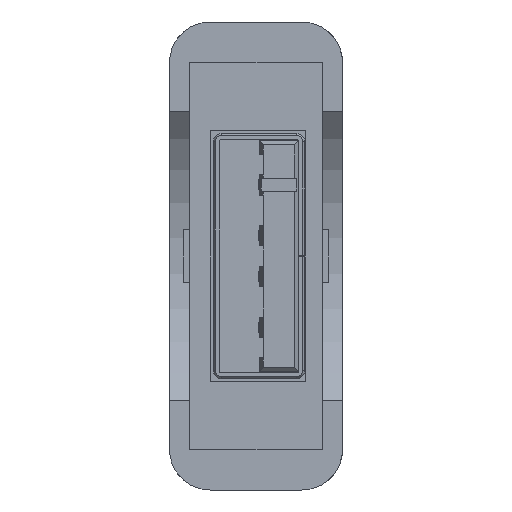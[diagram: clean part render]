
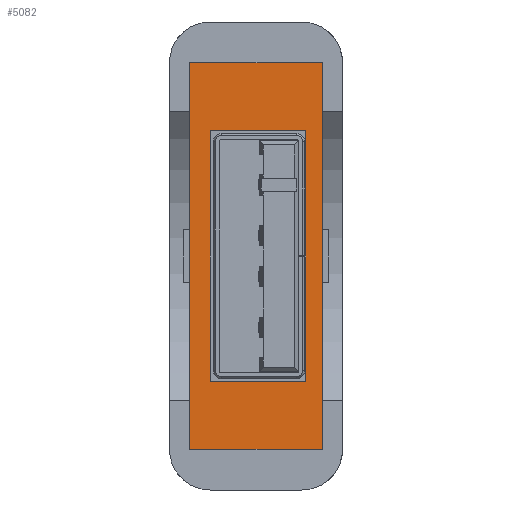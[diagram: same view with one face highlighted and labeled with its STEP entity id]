
A CAD part, left-side view. The second image highlights one B-rep face of the part: STEP entity #5082.
In plain terms, the highlighted planar face has unit normal (-1, 0, 0).
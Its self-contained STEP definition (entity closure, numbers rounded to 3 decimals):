
#132=FACE_BOUND('',#1951,.T.);
#520=LINE('',#8794,#1057);
#523=LINE('',#8799,#1060);
#559=LINE('',#8929,#1096);
#588=LINE('',#8988,#1125);
#602=LINE('',#9618,#1139);
#620=LINE('',#9667,#1157);
#622=LINE('',#9671,#1159);
#623=LINE('',#9672,#1160);
#1057=VECTOR('',#6517,1.);
#1060=VECTOR('',#6522,1.);
#1096=VECTOR('',#6600,1.);
#1125=VECTOR('',#6653,1.);
#1139=VECTOR('',#6769,1.);
#1157=VECTOR('',#6817,1.);
#1159=VECTOR('',#6821,1.);
#1160=VECTOR('',#6822,1.);
#1377=PLANE('',#5521);
#1642=FACE_OUTER_BOUND('',#1950,.T.);
#1950=EDGE_LOOP('',(#4611,#4612,#4613,#4614));
#1951=EDGE_LOOP('',(#4615,#4616,#4617,#4618));
#2493=VERTEX_POINT('',#8791);
#2494=VERTEX_POINT('',#8793);
#2495=VERTEX_POINT('',#8797);
#2537=VERTEX_POINT('',#8926);
#2538=VERTEX_POINT('',#8928);
#2556=VERTEX_POINT('',#8986);
#2590=VERTEX_POINT('',#9666);
#2591=VERTEX_POINT('',#9670);
#3125=EDGE_CURVE('',#2493,#2494,#520,.T.);
#3128=EDGE_CURVE('',#2493,#2495,#523,.T.);
#3177=EDGE_CURVE('',#2537,#2538,#559,.T.);
#3206=EDGE_CURVE('',#2556,#2495,#588,.T.);
#3253=EDGE_CURVE('',#2494,#2556,#602,.T.);
#3277=EDGE_CURVE('',#2590,#2538,#620,.T.);
#3279=EDGE_CURVE('',#2591,#2537,#622,.T.);
#3280=EDGE_CURVE('',#2590,#2591,#623,.T.);
#4611=ORIENTED_EDGE('',*,*,#3277,.T.);
#4612=ORIENTED_EDGE('',*,*,#3177,.F.);
#4613=ORIENTED_EDGE('',*,*,#3279,.F.);
#4614=ORIENTED_EDGE('',*,*,#3280,.F.);
#4615=ORIENTED_EDGE('',*,*,#3253,.F.);
#4616=ORIENTED_EDGE('',*,*,#3125,.F.);
#4617=ORIENTED_EDGE('',*,*,#3128,.T.);
#4618=ORIENTED_EDGE('',*,*,#3206,.F.);
#5082=ADVANCED_FACE('',(#1642,#132),#1377,.T.);
#5521=AXIS2_PLACEMENT_3D('',#9669,#6819,#6820);
#6517=DIRECTION('',(0.,0.,-1.));
#6522=DIRECTION('',(0.,-1.,0.));
#6600=DIRECTION('',(0.,0.,-1.));
#6653=DIRECTION('',(0.,0.,1.));
#6769=DIRECTION('',(0.,-1.,0.));
#6817=DIRECTION('',(0.,-1.,0.));
#6819=DIRECTION('center_axis',(-1.,0.,0.));
#6820=DIRECTION('ref_axis',(0.,0.,1.));
#6821=DIRECTION('',(0.,-1.,0.));
#6822=DIRECTION('',(0.,0.,1.));
#8791=CARTESIAN_POINT('',(10.541,35.799,46.305));
#8793=CARTESIAN_POINT('',(10.541,35.799,34.005));
#8794=CARTESIAN_POINT('',(10.541,35.799,46.305));
#8797=CARTESIAN_POINT('',(10.541,31.099,46.305));
#8799=CARTESIAN_POINT('',(10.541,35.799,46.305));
#8926=CARTESIAN_POINT('',(10.541,30.299,49.655));
#8928=CARTESIAN_POINT('',(10.541,30.299,30.655));
#8929=CARTESIAN_POINT('',(10.541,30.299,49.655));
#8986=CARTESIAN_POINT('',(10.541,31.099,34.005));
#8988=CARTESIAN_POINT('',(10.541,31.099,34.005));
#9618=CARTESIAN_POINT('',(10.541,35.799,34.005));
#9666=CARTESIAN_POINT('',(10.541,36.799,30.655));
#9667=CARTESIAN_POINT('',(10.541,36.799,30.655));
#9669=CARTESIAN_POINT('Origin',(10.541,37.799,49.655));
#9670=CARTESIAN_POINT('',(10.541,36.799,49.655));
#9671=CARTESIAN_POINT('',(10.541,36.799,49.655));
#9672=CARTESIAN_POINT('',(10.541,36.799,30.655));
